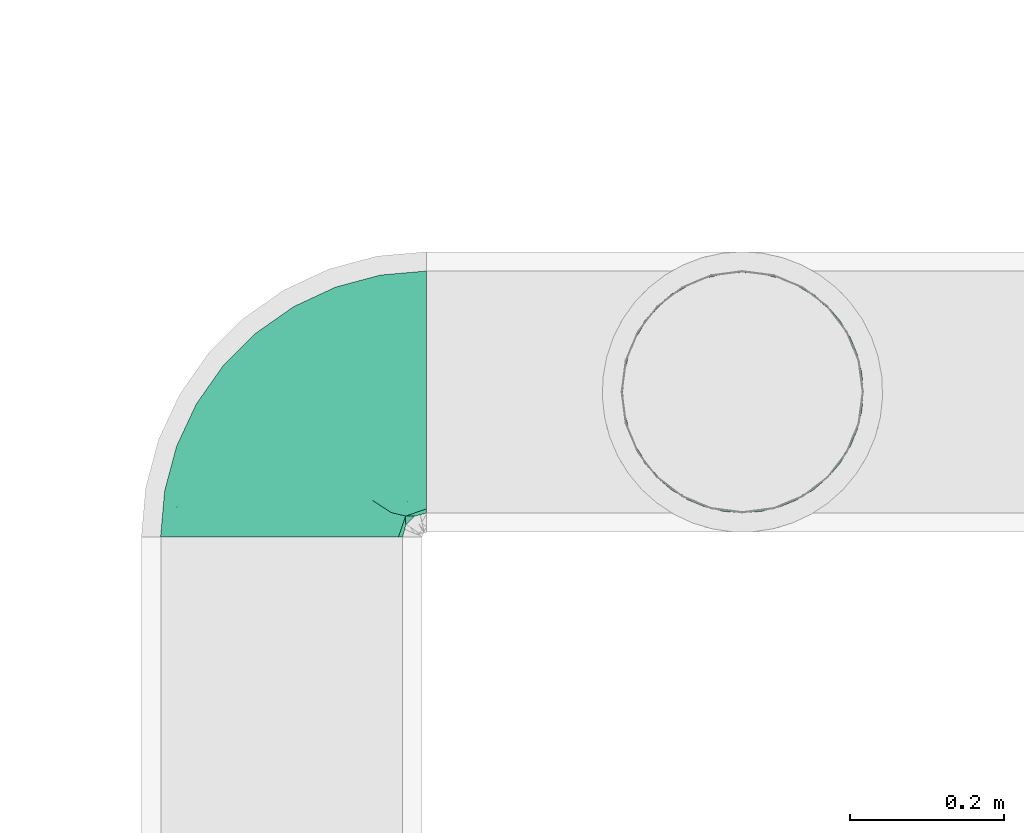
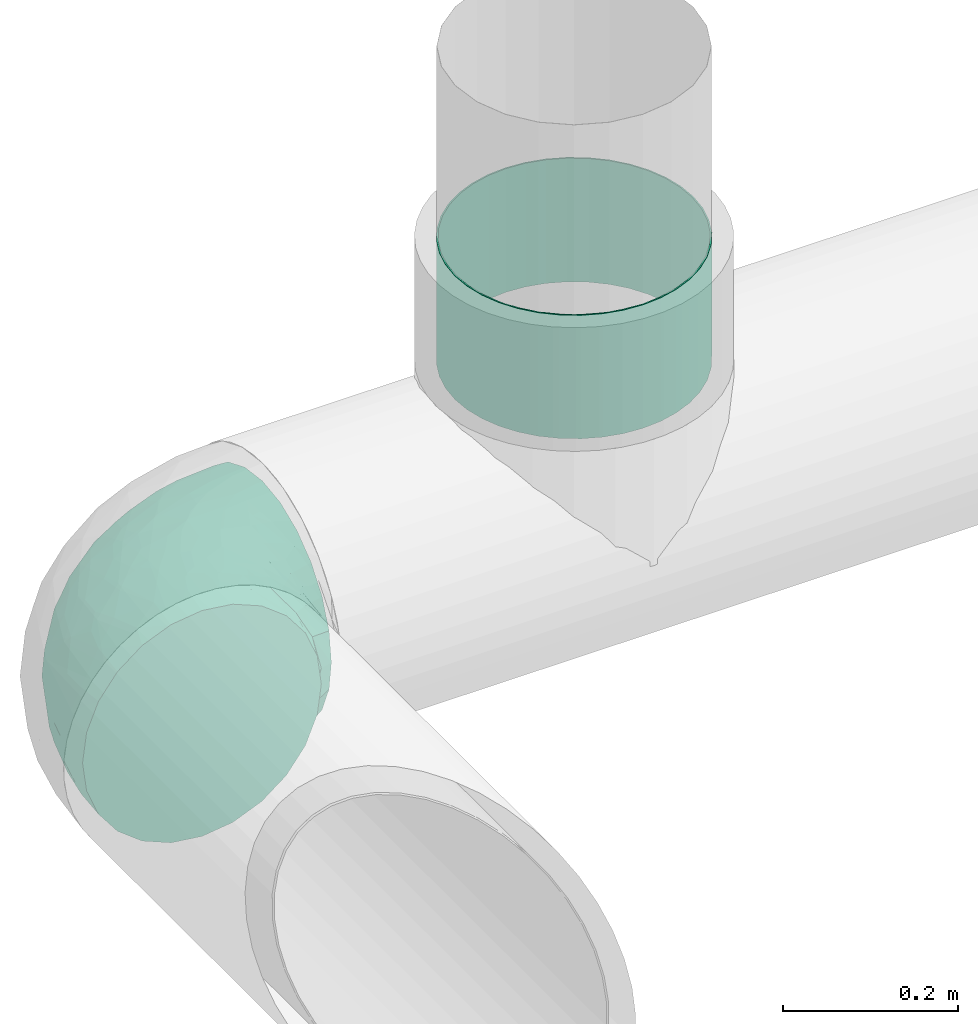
# One storey, part 7 of 12: 1 flow fitting, 1 flow segment.
"""IFC2X3 building model written with IfcOpenShell, lengths in millimetres."""

import ifcopenshell
import ifcopenshell.guid

model = None  # the IFC model being written
_history = None  # IfcOwnerHistory: only IFC2X3 demands one
_inside = {}  # id of a spatial element -> (the spatial element, [elements in it])
_under = {}  # id of a project, library or spatial element -> (it, [spatial elements below it])
_declared = {}  # id of a project -> (the project, [libraries it declares])
_typed = {}  # id of a type object -> (the type object, [elements of that type])
_made_of = {}  # id of a material, layer set ... -> (it, [elements and type objects made of it])


def new_model(schema):
    """Start an empty IFC model of exactly this schema.

    Asked for "IFC4X3", IfcOpenShell would pick the latest addendum, in which some entities
    have other attributes; the version numbers below select the first issue.
    IFC2X3 requires an IfcOwnerHistory on every rooted entity: one is made here for all.
    """
    global model, _history
    if schema == "IFC4X3":
        model = ifcopenshell.file(schema_version=(4, 3, 0, 0))
    else:
        model = ifcopenshell.file(schema=schema)
    _inside.clear()
    _under.clear()
    _declared.clear()
    _typed.clear()
    _made_of.clear()
    _history = None
    if model.schema == "IFC2X3":
        org = make("IfcOrganization", Name="unknown")
        user = make(
            "IfcPersonAndOrganization",
            ThePerson=make("IfcPerson", FamilyName="unknown"),
            TheOrganization=org,
        )
        app = make(
            "IfcApplication",
            ApplicationDeveloper=org,
            Version="unknown",
            ApplicationFullName="unknown",
            ApplicationIdentifier="unknown",
        )
        _history = make(
            "IfcOwnerHistory",
            OwningUser=user,
            OwningApplication=app,
            ChangeAction="ADDED",
            CreationDate=0,
        )
    return model


def make(cls, **values):
    """One entity of the class cls with the attributes given. An attribute that is None is left unset."""
    return model.create_entity(
        cls, **{name: value for name, value in values.items() if value is not None}
    )


def entity(cls, *values):
    """Any entity or typed value of the class cls, its attributes in the order of the schema. None: left unset."""
    e = model.create_entity(cls)
    for i, value in enumerate(values):
        if value is not None:
            e[i] = value
    return e


def rooted(cls, **values):
    """An entity with a GlobalId (a new one), such as an element, a storey or a relation."""
    return make(cls, GlobalId=ifcopenshell.guid.new(), OwnerHistory=_history, **values)


def si_unit(unit_type, name, prefix=None):
    """IfcSIUnit, for example si_unit("LENGTHUNIT", "METRE", prefix="MILLI")."""
    return make("IfcSIUnit", UnitType=unit_type, Prefix=prefix, Name=name)


def converted_unit(unit_type, name, factor, base, dimensions=None, offset=None):
    """IfcConversionBasedUnit, such as the inch: factor (a typed value) times the base unit."""
    return make(
        "IfcConversionBasedUnit"
        if offset is None
        else "IfcConversionBasedUnitWithOffset",
        ConversionOffset=offset,
        Dimensions=None
        if dimensions is None
        else entity("IfcDimensionalExponents", *dimensions),
        UnitType=unit_type,
        Name=name,
        ConversionFactor=make(
            "IfcMeasureWithUnit", ValueComponent=factor, UnitComponent=base
        ),
    )


def derived_unit(unit_type, elements):
    """IfcDerivedUnit: a product of units, each with its exponent."""
    return make(
        "IfcDerivedUnit",
        Elements=[
            make("IfcDerivedUnitElement", Unit=unit, Exponent=power)
            for unit, power in elements
        ],
        UnitType=unit_type,
    )


def assignment(units):
    """IfcUnitAssignment: the units of a project."""
    return None if units is None else make("IfcUnitAssignment", Units=units)


def point(xyz):
    """IfcCartesianPoint."""
    return None if xyz is None else make("IfcCartesianPoint", Coordinates=xyz)


def direction(xyz):
    """IfcDirection."""
    return None if xyz is None else make("IfcDirection", DirectionRatios=xyz)


def frame(location, z_axis=None, x_axis=None):
    """IfcAxis2Placement3D, a coordinate frame: its origin and axes. An axis left out is left unset."""
    return make(
        "IfcAxis2Placement3D",
        Location=point(location),
        Axis=direction(z_axis),
        RefDirection=direction(x_axis),
    )


def frame_2d(location, x_axis=None):
    """IfcAxis2Placement2D, a coordinate frame in the plane: its origin and x axis."""
    return make(
        "IfcAxis2Placement2D", Location=point(location), RefDirection=direction(x_axis)
    )


def origin_with_axes():
    """The frame at (0, 0, 0) with the z axis (0, 0, 1) and the x axis (1, 0, 0) written out."""
    return frame((0.0, 0.0, 0.0), z_axis=(0.0, 0.0, 1.0), x_axis=(1.0, 0.0, 0.0))


def origin_2d_with_axis():
    """The frame at (0, 0) in the plane with the x axis (1, 0) written out."""
    return frame_2d((0.0, 0.0), x_axis=(1.0, 0.0))


def place(relative_to, where):
    """IfcLocalPlacement: puts the frame where relative to a parent placement (None: the world)."""
    return make(
        "IfcLocalPlacement", PlacementRelTo=relative_to, RelativePlacement=where
    )


def context(
    kind, dimensions, precision=None, world=None, true_north=None, identifier=None
):
    """IfcGeometricRepresentationContext, for example the 3D "Model" context."""
    return make(
        "IfcGeometricRepresentationContext",
        ContextIdentifier=identifier,
        ContextType=kind,
        CoordinateSpaceDimension=dimensions,
        Precision=precision,
        WorldCoordinateSystem=world,
        TrueNorth=true_north,
    )


def subcontext(parent, identifier, kind, view, scale=None):
    """IfcGeometricRepresentationSubContext, for example "Body" below "Model"."""
    return make(
        "IfcGeometricRepresentationSubContext",
        ContextIdentifier=identifier,
        ContextType=kind,
        ParentContext=parent,
        TargetScale=scale,
        TargetView=view,
    )


def project(units=None, contexts=None):
    """IfcProject with its units and contexts."""
    return rooted(
        "IfcProject",
        Name="project",
        RepresentationContexts=contexts,
        UnitsInContext=assignment(units),
    )


def spatial(cls, under=None, at=None, **own):
    """A site, building, storey or space (cls), placed at a placement, below another one or the project."""
    s = rooted(cls, ObjectPlacement=at, **own)
    if under is not None:
        _under.setdefault(under.id(), (under, []))[1].append(s)
    return s


def profile(cls, at=None, kind="AREA", **sizes):
    """A parametric profile (cls). Its sizes go by their IFC names, for example OverallWidth=200.0."""
    return make(cls, ProfileType=kind, Position=at, **sizes)


def hollow_circle(**sizes):
    """IfcCircleHollowProfileDef."""
    return profile("IfcCircleHollowProfileDef", **sizes)


def extrude(swept, where, along, depth):
    """IfcExtrudedAreaSolid: the profile swept, set in the frame where, extruded along a direction by depth."""
    return make(
        "IfcExtrudedAreaSolid",
        SweptArea=swept,
        Position=where,
        ExtrudedDirection=direction(along),
        Depth=depth,
    )


def faces_of(points, faces, orient=None, outer=None):
    """IfcFace entities. A face is a list of loops; a loop is a list of indices into points, from 0.

    orient and outer hold one flag for each loop. By default every Orientation is true, the
    first loop of a face is its IfcFaceOuterBound and the others are IfcFaceBound.
    """
    made = []
    for i, loops in enumerate(faces):
        bounds = []
        for j, loop in enumerate(loops):
            is_outer = j == 0 if outer is None else outer[i][j]
            bounds.append(
                make(
                    "IfcFaceOuterBound" if is_outer else "IfcFaceBound",
                    Bound=make("IfcPolyLoop", Polygon=[points[k] for k in loop]),
                    Orientation=True if orient is None else orient[i][j],
                )
            )
        made.append(make("IfcFace", Bounds=bounds))
    return made


def open_shell(faces, orient=None, outer=None):
    """The faces of one IfcOpenShell. surface_model builds it on its shared points."""
    return ("IfcOpenShell", faces, orient, outer)


def surface_model(cls, points, shells):
    """IfcFaceBasedSurfaceModel or IfcShellBasedSurfaceModel (cls): surfaces that need not close."""
    shared = [point(p) for p in points]
    made = [make(c, CfsFaces=faces_of(shared, fs, o, b)) for c, fs, o, b in shells]
    if cls == "IfcFaceBasedSurfaceModel":
        return make(cls, FbsmFaces=made)
    return make(cls, SbsmBoundary=made)


def shape(context_of_items, identifier, shape_type, items):
    """IfcShapeRepresentation: the items that make up one representation, for example the "Body"."""
    return make(
        "IfcShapeRepresentation",
        ContextOfItems=context_of_items,
        RepresentationIdentifier=identifier,
        RepresentationType=shape_type,
        Items=items,
    )


def source(mapping_origin, context_of_items, identifier, shape_type, items):
    """IfcRepresentationMap: a shape defined once, which mapped items show again and again."""
    return make(
        "IfcRepresentationMap",
        MappingOrigin=mapping_origin,
        MappedRepresentation=shape(context_of_items, identifier, shape_type, items),
    )


def transform(
    local_origin,
    x_axis=None,
    y_axis=None,
    z_axis=None,
    scale=None,
    scale2=None,
    scale3=None,
    uniform=True,
):
    """IfcCartesianTransformationOperator3D, or its non-uniform kind. x_axis, y_axis, z_axis: its Axis1, 2, 3."""
    if uniform:
        return make(
            "IfcCartesianTransformationOperator3D",
            Axis1=direction(x_axis),
            Axis2=direction(y_axis),
            LocalOrigin=point(local_origin),
            Scale=scale,
            Axis3=direction(z_axis),
        )
    return make(
        "IfcCartesianTransformationOperator3DnonUniform",
        Axis1=direction(x_axis),
        Axis2=direction(y_axis),
        LocalOrigin=point(local_origin),
        Scale=scale,
        Axis3=direction(z_axis),
        Scale2=scale2,
        Scale3=scale3,
    )


def mapped(mapping_source, mapping_target):
    """IfcMappedItem: shows the shape of a source again, moved by a transform."""
    return make(
        "IfcMappedItem", MappingSource=mapping_source, MappingTarget=mapping_target
    )


def made_of(thing, what):
    """Note that an element or type object is made of a material, layer set ...; save() writes the relation."""
    if what is not None:
        _made_of.setdefault(what.id(), (what, []))[1].append(thing)
    return thing


def type_object(cls, material=None, **own):
    """A type object (cls), such as IfcWallType, which elements share."""
    return made_of(rooted(cls, **own), material)


def element(
    cls,
    number,
    at=None,
    inside=None,
    cuts=None,
    type_object=None,
    material=None,
    context=None,
    identifier="Body",
    shape_type=None,
    held_by="IfcProductDefinitionShape",
    body=None,
    shapes=None,
    **own,
):
    """One element of the class cls, such as IfcWall. Its Tag is "e" and its number.

    at: its placement. inside: the storey or other place that contains it. cuts: it is an
    opening in that element (IfcRelVoidsElement). A single representation is given by context,
    identifier, shape_type and body (its items); several are given by shapes. held_by: the class
    of the entity that holds the representations. save() writes the other relations.
    """
    e = rooted(cls, Tag="e%d" % number, ObjectPlacement=at, **own)
    if body is not None:
        shapes = [shape(context, identifier, shape_type, body)]
    if shapes is not None:
        e.Representation = make(held_by, Representations=shapes)
    if inside is not None:
        _inside.setdefault(inside.id(), (inside, []))[1].append(e)
    if cuts is not None:
        rooted(
            "IfcRelVoidsElement", RelatingBuildingElement=cuts, RelatedOpeningElement=e
        )
    if type_object is not None:
        _typed.setdefault(type_object.id(), (type_object, []))[1].append(e)
    return made_of(e, material)


def aggregate(whole, parts):
    """IfcRelAggregates: a whole, such as a stair, and the parts it consists of."""
    return rooted("IfcRelAggregates", RelatingObject=whole, RelatedObjects=parts)


def save(model, path):
    """Write the relations noted so far, then the file.

    IfcRelAggregates (storeys below a building ...), IfcRelContainedInSpatialStructure (elements
    in a storey), IfcRelDefinesByType, IfcRelAssociatesMaterial and IfcRelDeclares: one each for
    every whole, place, type object, material and project.
    """
    for whole, parts in _under.values():
        aggregate(whole, parts)
    for where, things in _inside.values():
        rooted(
            "IfcRelContainedInSpatialStructure",
            RelatedElements=things,
            RelatingStructure=where,
        )
    for kind, things in _typed.values():
        rooted("IfcRelDefinesByType", RelatedObjects=things, RelatingType=kind)
    for what, things in _made_of.values():
        rooted("IfcRelAssociatesMaterial", RelatedObjects=things, RelatingMaterial=what)
    for by, libraries in _declared.values():
        rooted("IfcRelDeclares", RelatingContext=by, RelatedDefinitions=libraries)
    model.write(path)


model = new_model("IFC2X3")

# Units and contexts
model_context = context("Model", 3, precision=0.01, world=frame((0.0, 4.29681676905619e-09, 0.0)), true_north=direction((4.01073788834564e-13, 1.0)))
plan_context = context("Plan", 3, precision=0.01, world=frame((0.0, 4.29681676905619e-09, 0.0)), true_north=direction((4.01073788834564e-13, 1.0)))
body_context = subcontext(model_context, "Body", "Model", "MODEL_VIEW")
ifc_project = project(units=[converted_unit("PLANEANGLEUNIT", "DEGREE", entity("IfcPositiveLengthMeasure", 0.0174532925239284), si_unit("PLANEANGLEUNIT", "RADIAN"), dimensions=[0, 0, 0, 0, 0, 0, 0]), si_unit("AREAUNIT", "SQUARE_METRE"), si_unit("LENGTHUNIT", "METRE", prefix="MILLI"), si_unit("MASSUNIT", "GRAM", prefix="KILO"), si_unit("POWERUNIT", "WATT"), si_unit("PRESSUREUNIT", "PASCAL", prefix="KILO"), si_unit("FORCEUNIT", "NEWTON", prefix="KILO"), si_unit("ELECTRICVOLTAGEUNIT", "VOLT"), si_unit("ELECTRICCURRENTUNIT", "AMPERE"), si_unit("THERMODYNAMICTEMPERATUREUNIT", "DEGREE_CELSIUS"), si_unit("TIMEUNIT", "SECOND"), si_unit("VOLUMEUNIT", "CUBIC_METRE"), derived_unit("LINEARVELOCITYUNIT", [(si_unit("LENGTHUNIT", "METRE"), 1), (si_unit("TIMEUNIT", "SECOND"), -1)]), derived_unit("VOLUMETRICFLOWRATEUNIT", [(si_unit("VOLUMEUNIT", "CUBIC_METRE"), 1), (si_unit("TIMEUNIT", "SECOND"), -1)]), derived_unit("THERMALTRANSMITTANCEUNIT", [(si_unit("POWERUNIT", "WATT"), 1), (si_unit("THERMODYNAMICTEMPERATUREUNIT", "KELVIN"), -1), (si_unit("AREAUNIT", "SQUARE_METRE"), -1)]), derived_unit("SOUNDPRESSUREUNIT", [(si_unit("PRESSUREUNIT", "PASCAL"), 1)])], contexts=[model_context, plan_context])

# Site, building, storey
site_placement = place(None, frame((0.0, -4.29681676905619e-09, 0.0), z_axis=(0.0, 0.0, 1.0), x_axis=(1.0, 0.0, 0.0)))
site = spatial("IfcSite", under=ifc_project, at=site_placement, CompositionType="ELEMENT")
building_placement = place(site_placement, frame((0.0, 4.29681676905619e-09, 0.0), z_axis=(0.0, 0.0, 1.0), x_axis=(1.0, 0.0, 0.0)))
building = spatial("IfcBuilding", under=site, at=building_placement, Name="mc-building", CompositionType="ELEMENT")
storey_placement = place(building_placement, frame((0.0, 0.0, 204000.0), z_axis=(0.0, 0.0, 1.0), x_axis=(1.0, 0.0, 0.0)))
storey = spatial("IfcBuildingStorey", under=building, at=storey_placement, Name="Nivå D", CompositionType="ELEMENT", Elevation=204000.0)

# Flow fitting
duct_fitting_type = type_object("IfcDuctFittingType", Name="magicirc_elbow_short_001", PredefinedType="BEND")
shared_shape_1 = source(origin_with_axes(), body_context, "Body", "SurfaceModel", [
    surface_model("IfcShellBasedSurfaceModel", [(-189.0, 78.75, -136.39901), (-189.0, 40.764, -152.13332), (-189.0, 0.0, -157.5), (-189.0, 111.36932, -111.36932), (-189.0, 152.13332, -40.764), (-189.0, 136.39901, -78.75), (-189.0, -78.75, -136.39901), (-189.0, -111.36932, -111.36932), (-189.0, -40.764, -152.13332), (-189.0, -152.13332, -40.764), (-189.0, -136.39901, -78.75), (-189.0, -157.5, 0.0), (-189.0, -152.13332, 40.764), (-189.0, 136.39901, 78.75), (-189.0, 152.13332, 40.764), (-189.0, 111.36932, 111.36932), (-189.0, 78.75, 136.39901), (-189.0, -136.39901, 78.75), (-189.0, -111.36932, 111.36932), (-189.0, -78.75, 136.39901), (-189.0, -40.764, 152.13332), (-189.0, 0.0, 157.5), (-189.0, 40.764, 152.13332), (0.0, 189.0, -157.5), (-40.764, 189.0, -152.13332), (-78.75, 189.0, -136.39901), (-111.36932, 189.0, -111.36932), (-136.39901, 189.0, -78.75), (-152.13332, 189.0, -40.764), (152.13332, 189.0, 40.764), (152.13332, 189.0, -40.764), (40.764, 189.0, -152.13332), (111.36932, 189.0, -111.36932), (78.75, 189.0, -136.39901), (136.39901, 189.0, -78.75), (157.5, 189.0, 0.0), (-152.13332, 189.0, 40.764), (-111.36932, 189.0, 111.36932), (-136.39901, 189.0, 78.75), (-78.75, 189.0, 136.39901), (-40.764, 189.0, 152.13332), (111.36932, 189.0, 111.36932), (136.39901, 189.0, 78.75), (40.764, 189.0, 152.13332), (78.75, 189.0, 136.39901), (0.0, 189.0, 157.5), (-157.5, 189.0, 0.0), (-146.82647, -148.73404, 43.55813), (-152.53698, -154.30989, 0.0), (-128.83091, -152.23588, 0.0), (49.033, 86.74286, 141.05575), (73.96756, 50.08962, 114.25948), (80.71898, 84.48868, 121.46737), (93.7561, -8.98795, 0.0), (68.80167, -29.22878, 51.72126), (76.4344, -33.72591, 0.0), (-97.37792, -140.80841, 36.13658), (-99.66046, -144.41969, 0.0), (-85.08944, 153.36086, 136.16868), (-70.49002, -136.60349, 0.0), (-52.11329, -124.77074, 36.00089), (-140.73024, -35.43399, 152.18621), (-160.5858, -130.32816, 86.54689), (-138.12227, -106.88194, 111.51409), (-121.65457, -76.11965, 132.88842), (-160.87463, -69.15915, 140.74672), (-25.25045, -109.00671, 44.67122), (-15.75, -111.0778, 0.0), (8.98795, -93.7561, 0.0), (35.48323, 140.48111, 152.15935), (-105.77141, -98.25391, 112.65537), (-125.05707, 110.33905, 130.87226), (-118.33723, 141.04327, 118.63047), (-140.45256, 132.57189, 108.08216), (-84.20627, -128.87676, 59.80247), (-42.24478, 37.80735, 155.99735), (-76.09851, 23.47671, 157.08968), (-21.97676, 5.08153, 145.85286), (-148.3241, 46.79067, 152.04619), (-141.07596, 83.6671, 139.4155), (-169.61846, 88.65571, 131.42231), (-149.86377, 7.0178, 157.47409), (-164.24817, 142.27922, 79.21812), (-38.90905, -74.51537, 108.39982), (-21.51185, -31.1381, 130.88448), (-78.48781, -47.09871, 140.242), (-158.04301, 118.06714, 111.13197), (-161.49592, 161.49592, 47.69938), (-189.0, 157.5, 0.0), (-173.25, 161.7202, 0.0), (-71.14672, 117.54032, 148.95444), (-48.53381, 80.38159, 157.08422), (-38.0499, 105.94603, 156.61108), (-107.82752, -27.46831, 151.74483), (25.98079, -68.52928, 57.91101), (-2.49207, -89.842, 57.91101), (18.17919, -85.25948, 29.47632), (106.91243, 137.86518, 111.44051), (107.98856, 76.77233, 91.09139), (132.43407, 110.53889, 68.40105), (98.22703, 106.22366, 112.80306), (49.87623, -56.82814, 34.06048), (76.2184, 120.66886, 132.67152), (69.30601, 160.29705, 140.64149), (148.73404, 146.82647, 43.55813), (136.44937, 149.61971, 74.39319), (141.15744, 96.23303, 33.28536), (154.30989, 152.53698, 0.0), (-79.14709, -78.07857, 121.85468), (-142.50673, 156.96891, 85.08305), (-6.25371, 146.56094, 157.49386), (-119.18069, 168.29594, 106.34604), (-7.7712, 37.9551, 150.34868), (-161.7202, 173.25, 0.0), (20.73863, 22.80421, 136.4838), (45.79638, 11.43074, 117.05167), (46.64669, 45.96804, 131.51649), (17.71633, 115.68288, 154.55145), (-44.71298, 135.75281, 153.51583), (124.10348, 54.99065, 42.78832), (19.23744, 59.23612, 147.07076), (-59.757, 189.0, 144.26616), (-40.39445, 162.15387, 152.84988), (-106.89705, 54.01286, 154.41806), (42.62384, -42.62385, 74.87208), (-103.67825, -119.29128, 87.6164), (-122.10302, -132.77719, 72.81501), (-74.73976, -107.05822, 91.29409), (-58.68494, -13.38955, 148.76775), (-33.42967, -98.98136, 75.3332), (-12.93373, -80.09293, 85.03047), (-57.45365, -116.48754, 64.67941), (144.41969, 99.66046, 0.0), (63.28555, -3.7111, 91.11734), (26.66288, -18.86236, 112.20397), (-88.20665, 88.20664, 150.49261), (-99.84608, 118.68975, 138.24779), (89.842, 2.49207, 57.91101), (107.83801, 32.48682, 57.64226), (89.5215, 29.9536, 86.32806), (-17.27408, 120.20724, 157.449), (103.18655, 7.97929, 29.47632), (136.60349, 70.49002, 0.0), (4.52175, -58.17888, 95.91834), (-25.69452, 61.39509, 156.43932), (-0.8953, 89.70214, 155.70588), (-71.774, 57.87122, 156.95328), (111.0778, 15.75, 0.0), (123.84065, 43.12001, 0.0), (-128.59823, 21.61394, 157.11194), (-102.54228, 0.8839, 156.46427), (-43.12001, -123.84065, 0.0), (152.23588, 128.83091, 0.0), (33.72591, -76.4344, 0.0), (55.08015, -55.08015, 0.0), (3.04001, -8.98392, 131.40941), (-149.37334, 6.90093, -157.47789), (-127.65053, 19.54445, -157.25505), (-101.63434, 0.86217, -156.41758), (-149.881, 117.88366, -114.79529), (-168.97769, 112.18181, -113.09611), (-171.44166, 138.11591, -80.8385), (-97.65829, -53.6841, -140.93797), (-128.71073, -75.30605, -134.41229), (-142.28639, -35.12049, -152.3525), (-14.53623, 14.53621, -146.53876), (19.21591, -10.56392, -122.16443), (-32.58138, -35.5269, -132.82409), (-161.49592, 161.49592, -47.69938), (-27.84596, 112.602, -157.13925), (-46.89661, 87.05932, -156.86637), (-54.76208, 116.09995, -153.27291), (24.54996, -65.39931, -65.68692), (62.53428, -39.64599, -45.03474), (42.35247, -61.80031, -40.474), (-85.22006, 154.17109, -135.94475), (-68.67661, 39.77392, -157.47698), (-96.27985, 86.46587, -149.09616), (-189.0, 59.757, -144.26616), (-164.33677, 41.04681, -152.5937), (-56.04714, 0.71063, -151.93473), (106.68579, 139.72934, -111.97263), (108.82999, 81.61939, -92.33309), (90.16092, 95.61076, -117.0636), (-143.49405, 167.03036, -75.05192), (-154.59868, 143.86665, -85.53345), (-146.82647, -148.73404, -43.55813), (-139.72934, -106.68579, -111.97263), (-158.69814, -78.71922, -135.41598), (-109.30616, -96.88101, -114.84542), (-154.17109, 85.22006, -135.94475), (-122.7277, 106.27562, -133.8534), (-97.06108, 118.571, -139.46376), (-124.29608, 79.85164, -144.73443), (-149.61972, -136.44937, -74.39319), (-96.23303, -141.15744, -33.28536), (-54.06704, -123.39932, -43.77526), (-110.5389, -132.43407, -68.40105), (-135.48821, 131.24593, -112.46181), (75.91681, 64.4352, -118.50759), (-107.08066, 157.86996, -120.54603), (32.57609, 42.69927, -137.66346), (59.9817, 10.07153, -104.76193), (75.30605, 128.71071, -134.41229), (53.6841, 97.65827, -140.93797), (35.1205, 142.28638, -152.3525), (-45.33369, 140.10537, -153.03377), (-41.04681, 164.33677, -152.5937), (-59.757, 189.0, -144.26616), (-189.0, 123.88416, -95.05966), (-6.90093, 149.37331, -157.47789), (101.88085, 6.10023, -30.06201), (83.56153, -18.18278, -35.84847), (88.95677, 3.68958, -61.33662), (-73.96886, 100.59351, -151.25205), (78.71922, 158.69814, -135.41597), (59.757, 189.0, -144.26616), (94.06788, 40.28144, -87.79988), (107.297, 31.95277, -58.22044), (148.73404, 146.82647, -43.55813), (136.44937, 149.61971, -74.39319), (25.69513, 78.83868, -148.56019), (52.78982, 64.18559, -133.79037), (141.15744, 96.23303, -33.28536), (123.39931, 54.06704, -43.77527), (-99.67042, 56.5784, -154.75725), (-81.6194, -108.82999, -92.33309), (-140.10539, 45.33368, -153.03377), (-64.43522, -75.91682, -118.50759), (-62.75607, -51.57693, -134.04781), (-14.17822, -66.28312, -101.5314), (65.05234, -15.13826, -77.86444), (37.80166, -37.80167, -86.30899), (132.43407, 110.53889, -68.40105), (16.73141, 123.34849, -155.1767), (-0.86217, 101.63431, -156.41758), (-125.84608, 166.17885, -99.79484), (-118.31036, 141.35192, -118.49872), (-13.21391, 58.80011, -154.66423), (-36.36222, 37.14521, -155.28703), (-112.79208, -24.56514, -152.90791), (-39.63577, -93.47058, -88.13749), (-6.61847, -102.14217, -30.33919), (-32.26173, -107.24999, -58.68616), (-135.56345, 151.20073, -97.68664), (-3.68958, -88.95677, -61.33662), (-0.69072, -39.04419, -115.81001), (-77.00417, -27.43387, -147.69846), (21.29912, -81.73119, -33.87707), (-189.0, 144.26616, -59.757), (-189.0, -59.757, -144.26616)], [open_shell([[[0, 1, 2]], [[3, 0, 2]], [[4, 5, 3]], [[6, 7, 8]], [[9, 8, 7]], [[10, 9, 7]], [[9, 2, 8]], [[11, 12, 9]], [[13, 14, 15]], [[16, 15, 12]], [[17, 18, 12]], [[18, 16, 12]], [[19, 20, 18]], [[21, 18, 20]], [[18, 21, 22]], [[23, 24, 25]], [[23, 25, 26]], [[26, 27, 28]], [[23, 26, 29]], [[30, 23, 29]], [[31, 32, 33]], [[32, 31, 30]], [[32, 30, 34]], [[31, 23, 30]], [[30, 29, 35]], [[28, 29, 26]], [[28, 36, 37]], [[37, 36, 38]], [[29, 37, 39]], [[37, 29, 28]], [[39, 40, 41]], [[29, 41, 42]], [[29, 39, 41]], [[41, 43, 44]], [[43, 41, 45]], [[40, 45, 41]], [[36, 28, 46]], [[47, 48, 49]], [[50, 51, 52]], [[53, 54, 55]], [[47, 12, 48]], [[56, 47, 57]], [[39, 37, 58]], [[56, 59, 60]], [[20, 61, 21]], [[62, 18, 17]], [[63, 64, 65]], [[66, 67, 68]], [[43, 45, 69]], [[47, 17, 12]], [[64, 63, 70]], [[71, 72, 73]], [[56, 60, 74]], [[75, 76, 77]], [[18, 63, 19]], [[78, 79, 80]], [[81, 22, 21]], [[61, 20, 65]], [[13, 82, 14]], [[83, 84, 85]], [[15, 86, 13]], [[87, 88, 14]], [[88, 87, 89]], [[90, 91, 92]], [[61, 85, 93]], [[16, 80, 15]], [[94, 95, 96]], [[46, 87, 36]], [[97, 98, 99]], [[65, 20, 19]], [[52, 98, 100]], [[94, 96, 101]], [[102, 69, 50]], [[43, 103, 44]], [[44, 97, 41]], [[104, 105, 106]], [[103, 69, 102]], [[104, 107, 29]], [[44, 103, 97]], [[106, 105, 99]], [[104, 29, 42]], [[108, 64, 70]], [[87, 82, 109]], [[45, 40, 110]], [[109, 111, 38]], [[86, 82, 13]], [[77, 112, 75]], [[100, 97, 102]], [[89, 87, 113]], [[114, 115, 116]], [[113, 87, 46]], [[16, 22, 78]], [[87, 109, 36]], [[110, 69, 45]], [[69, 110, 117]], [[58, 90, 118]], [[37, 38, 111]], [[15, 80, 86]], [[99, 98, 119]], [[116, 50, 120]], [[121, 39, 122]], [[39, 58, 122]], [[79, 78, 123]], [[62, 63, 18]], [[124, 101, 54]], [[125, 126, 74]], [[105, 97, 99]], [[85, 61, 64]], [[61, 93, 81]], [[127, 108, 70]], [[85, 84, 128]], [[129, 130, 83]], [[127, 125, 131]], [[104, 106, 132]], [[124, 133, 134]], [[81, 78, 22]], [[79, 123, 135]], [[71, 86, 79]], [[82, 86, 73]], [[111, 58, 37]], [[72, 71, 136]], [[137, 138, 139]], [[122, 40, 121]], [[110, 122, 140]], [[141, 138, 137]], [[106, 119, 142]], [[117, 50, 69]], [[143, 134, 84]], [[144, 120, 145]], [[135, 91, 90]], [[75, 91, 146]], [[128, 77, 76]], [[129, 127, 131]], [[94, 143, 130]], [[57, 59, 56]], [[62, 47, 126]], [[105, 104, 42]], [[119, 147, 148]], [[61, 81, 21]], [[149, 81, 150]], [[149, 123, 78]], [[146, 76, 75]], [[86, 71, 73]], [[14, 82, 87]], [[111, 109, 72]], [[36, 109, 38]], [[79, 135, 71]], [[136, 135, 90]], [[47, 49, 57]], [[60, 59, 151]], [[47, 56, 126]], [[66, 95, 129]], [[56, 74, 126]], [[132, 106, 142]], [[132, 152, 104]], [[119, 106, 99]], [[131, 74, 60]], [[74, 131, 125]], [[70, 125, 127]], [[63, 126, 125]], [[66, 131, 60]], [[131, 66, 129]], [[60, 67, 66]], [[68, 96, 66]], [[96, 153, 101]], [[153, 96, 68]], [[66, 96, 95]], [[101, 153, 154]], [[53, 141, 54]], [[101, 124, 94]], [[94, 124, 143]], [[134, 143, 124]], [[84, 83, 143]], [[54, 133, 124]], [[114, 77, 155]], [[130, 129, 95]], [[127, 129, 83]], [[139, 133, 137]], [[51, 116, 115]], [[94, 130, 95]], [[83, 130, 143]], [[55, 54, 101]], [[133, 54, 137]], [[149, 150, 76]], [[138, 141, 119]], [[119, 98, 138]], [[139, 98, 51]], [[98, 139, 138]], [[133, 139, 51]], [[136, 58, 72]], [[146, 91, 135]], [[144, 75, 112]], [[145, 140, 92]], [[72, 109, 73]], [[82, 73, 109]], [[42, 41, 105]], [[97, 105, 41]], [[135, 123, 146]], [[123, 149, 76]], [[123, 76, 146]], [[128, 76, 150]], [[128, 150, 93]], [[128, 84, 77]], [[155, 77, 84]], [[112, 77, 114]], [[120, 112, 114]], [[75, 144, 91]], [[116, 120, 114]], [[117, 120, 50]], [[114, 134, 115]], [[50, 116, 51]], [[134, 133, 115]], [[51, 115, 133]], [[120, 144, 112]], [[92, 144, 145]], [[135, 136, 71]], [[58, 136, 90]], [[84, 134, 155]], [[114, 155, 134]], [[12, 11, 48]], [[107, 104, 152]], [[107, 35, 29]], [[58, 111, 72]], [[69, 103, 43]], [[97, 103, 102]], [[47, 62, 17]], [[63, 62, 126]], [[63, 65, 19]], [[61, 65, 64]], [[78, 80, 16]], [[86, 80, 79]], [[122, 58, 118]], [[140, 122, 118]], [[110, 40, 122]], [[125, 70, 63]], [[108, 127, 83]], [[83, 85, 108]], [[85, 64, 108]], [[128, 93, 85]], [[81, 93, 150]], [[52, 100, 102]], [[98, 97, 100]], [[50, 52, 102]], [[98, 52, 51]], [[92, 140, 118]], [[117, 140, 145]], [[90, 92, 118]], [[92, 91, 144]], [[140, 117, 110]], [[117, 145, 120]], [[147, 119, 141]], [[148, 142, 119]], [[78, 81, 149]], [[67, 60, 151]], [[55, 101, 154]], [[156, 157, 158]], [[159, 160, 161]], [[162, 163, 164]], [[165, 166, 167]], [[2, 1, 156]], [[89, 168, 88]], [[169, 170, 171]], [[172, 173, 174]], [[25, 175, 26]], [[88, 168, 4]], [[176, 177, 170]], [[178, 0, 179]], [[176, 180, 158]], [[181, 182, 183]], [[168, 184, 185]], [[10, 186, 9]], [[187, 188, 189]], [[0, 3, 190]], [[186, 48, 9]], [[30, 35, 107]], [[177, 191, 192]], [[6, 187, 7]], [[193, 190, 191]], [[186, 194, 195]], [[59, 196, 151]], [[28, 184, 168]], [[163, 188, 8]], [[194, 197, 195]], [[159, 198, 191]], [[33, 32, 181]], [[168, 89, 113]], [[199, 183, 182]], [[46, 28, 168]], [[8, 2, 164]], [[200, 26, 175]], [[201, 202, 166]], [[203, 204, 205]], [[206, 175, 25]], [[207, 208, 24]], [[161, 160, 209]], [[23, 31, 205]], [[184, 28, 27]], [[55, 154, 173]], [[23, 210, 24]], [[211, 212, 213]], [[25, 208, 207]], [[177, 192, 214]], [[33, 215, 216]], [[217, 218, 213]], [[213, 218, 211]], [[186, 195, 57]], [[31, 216, 215]], [[219, 220, 34]], [[221, 204, 222]], [[132, 223, 219]], [[147, 211, 224]], [[107, 152, 219]], [[30, 107, 219]], [[193, 177, 225]], [[187, 226, 197]], [[161, 4, 168]], [[34, 30, 219]], [[227, 179, 0]], [[203, 205, 31]], [[228, 229, 230]], [[46, 168, 113]], [[202, 231, 232]], [[226, 196, 197]], [[220, 181, 32]], [[181, 233, 182]], [[203, 183, 204]], [[210, 234, 235]], [[156, 164, 2]], [[163, 162, 228]], [[189, 228, 226]], [[194, 187, 197]], [[160, 3, 209]], [[190, 159, 191]], [[170, 214, 171]], [[236, 200, 237]], [[238, 170, 169]], [[157, 225, 158]], [[239, 170, 238]], [[176, 239, 180]], [[194, 186, 10]], [[195, 196, 59]], [[132, 142, 223]], [[219, 223, 220]], [[1, 178, 179]], [[156, 158, 240]], [[205, 210, 23]], [[210, 235, 169]], [[224, 182, 233]], [[217, 199, 182]], [[228, 189, 163]], [[211, 218, 224]], [[230, 241, 228]], [[242, 196, 243]], [[226, 241, 243]], [[242, 67, 196]], [[27, 236, 184]], [[198, 185, 244]], [[244, 184, 236]], [[5, 161, 209]], [[57, 195, 59]], [[57, 49, 186]], [[196, 195, 197]], [[219, 152, 132]], [[224, 233, 223]], [[223, 233, 220]], [[222, 204, 199]], [[204, 221, 234]], [[201, 222, 202]], [[201, 165, 238]], [[202, 199, 217]], [[166, 202, 232]], [[241, 230, 245]], [[201, 166, 165]], [[246, 232, 230]], [[162, 247, 229]], [[158, 247, 240]], [[247, 158, 180]], [[246, 230, 167]], [[172, 230, 232]], [[243, 241, 245]], [[226, 228, 241]], [[26, 236, 27]], [[244, 236, 237]], [[26, 200, 236]], [[192, 200, 175]], [[198, 244, 237]], [[185, 184, 244]], [[237, 192, 191]], [[185, 198, 159]], [[237, 191, 198]], [[191, 177, 193]], [[200, 192, 237]], [[206, 171, 175]], [[225, 177, 176]], [[227, 190, 193]], [[158, 225, 176]], [[227, 193, 225]], [[192, 175, 171]], [[170, 177, 214]], [[171, 214, 192]], [[169, 171, 206]], [[210, 169, 206]], [[169, 235, 238]], [[243, 245, 242]], [[226, 243, 196]], [[248, 242, 245]], [[248, 68, 242]], [[245, 172, 248]], [[174, 153, 248]], [[248, 172, 174]], [[154, 153, 174]], [[173, 232, 231]], [[230, 172, 245]], [[173, 172, 232]], [[68, 248, 153]], [[68, 67, 242]], [[154, 174, 173]], [[10, 7, 194]], [[187, 194, 7]], [[181, 220, 233]], [[32, 34, 220]], [[238, 235, 221]], [[239, 238, 165]], [[218, 182, 224]], [[202, 217, 213]], [[182, 218, 217]], [[224, 142, 148]], [[211, 147, 53]], [[212, 173, 231]], [[53, 212, 211]], [[212, 53, 55]], [[55, 173, 212]], [[48, 186, 49]], [[48, 11, 9]], [[4, 161, 249]], [[159, 190, 160]], [[190, 3, 160]], [[215, 203, 31]], [[33, 181, 215]], [[181, 203, 215]], [[163, 8, 164]], [[227, 0, 190]], [[157, 179, 227]], [[156, 1, 179]], [[207, 210, 206]], [[210, 207, 24]], [[25, 207, 206]], [[165, 167, 180]], [[228, 162, 229]], [[167, 247, 180]], [[240, 162, 164]], [[162, 240, 247]], [[156, 240, 164]], [[247, 167, 229]], [[230, 229, 167]], [[179, 157, 156]], [[225, 157, 227]], [[210, 205, 234]], [[204, 234, 205]], [[204, 183, 199]], [[181, 183, 203]], [[142, 224, 223]], [[148, 147, 224]], [[226, 187, 189]], [[196, 67, 151]], [[161, 168, 185]], [[161, 5, 249]], [[159, 161, 185]], [[202, 222, 199]], [[221, 222, 201]], [[238, 221, 201]], [[221, 235, 234]], [[202, 213, 231]], [[231, 213, 212]], [[167, 166, 246]], [[232, 246, 166]], [[180, 239, 165]], [[170, 239, 176]], [[2, 4, 3]], [[9, 4, 2]], [[88, 4, 9]], [[15, 14, 9]], [[12, 15, 9]], [[16, 18, 22]], [[88, 9, 14]], [[137, 54, 141]], [[53, 147, 141]], [[188, 187, 6]], [[188, 6, 250]], [[8, 188, 250]], [[188, 163, 189]]])]),
])
flow_fitting_placement = place(storey_placement, frame((596732.0, 404386.04214, 2800.0), z_axis=(0.0, 0.0, 1.0), x_axis=(-1.0, 0.0, 0.0)))
element("IfcFlowFitting", 1, at=flow_fitting_placement, inside=storey, type_object=duct_fitting_type, Name="magicirc_elbow_short_001", context=body_context, shape_type="MappedRepresentation", body=[
    mapped(shared_shape_1, transform((0.0, 0.0, 0.0), scale=1.0)),
])

# Flow segment
duct_segment_type = type_object("IfcDuctSegmentType", Name="KK001T - Spiro kanaler, Forsinket stål", PredefinedType="RIGIDSEGMENT")
shared_shape_2 = source(origin_with_axes(), body_context, "Body", "SweptSolid", [
    extrude(hollow_circle(Radius=157.5, WallThickness=2.0, at=origin_2d_with_axis()), frame((0.0, 0.0, 0.0), z_axis=(1.0, 0.0, 0.0), x_axis=(0.0, 1.0, 0.0)), (0.0, 0.0, 1.0), 172.5),
])
flow_segment_placement = place(storey_placement, frame((597332.0, 404386.04214, 3155.0), z_axis=(1.0, 0.0, 0.0), x_axis=(0.0, 0.0, -1.0)))
element("IfcFlowSegment", 2, at=flow_segment_placement, inside=storey, type_object=duct_segment_type, Name="KK001T - Spiro kanaler, Forsinket stål", context=body_context, shape_type="MappedRepresentation", body=[
    mapped(shared_shape_2, transform((0.0, 0.0, 0.0), scale=1.0)),
])

save(model, "model.ifc")
